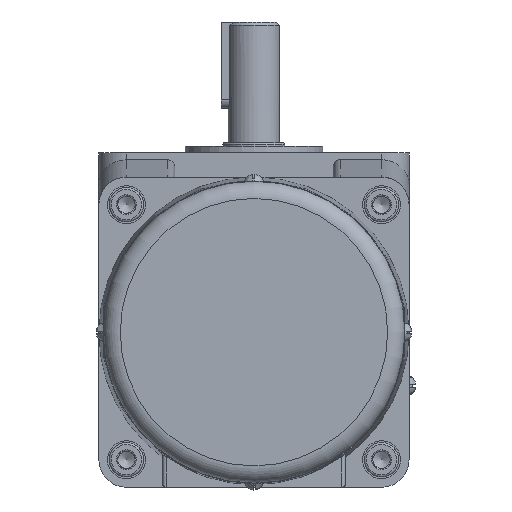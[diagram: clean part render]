
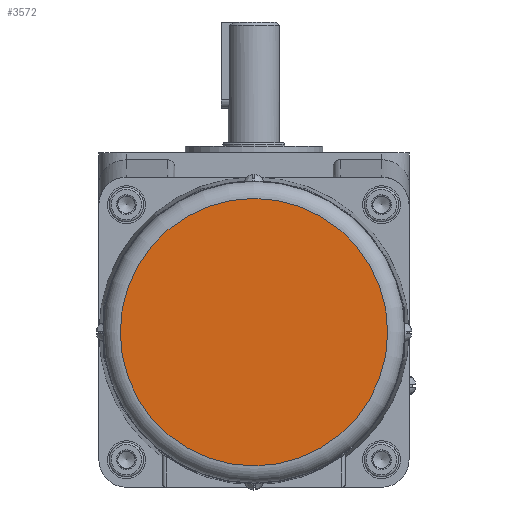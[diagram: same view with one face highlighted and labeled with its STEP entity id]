
A CAD part, front view. The second image highlights one B-rep face of the part: STEP entity #3572.
In plain terms, the highlighted planar face has unit normal (0, -1, 0).
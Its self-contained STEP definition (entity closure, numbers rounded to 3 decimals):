
#222=FACE_OUTER_BOUND('',#4838,.T.);
#3572=ADVANCED_FACE('',(#222),#4163,.F.);
#4163=PLANE('',#11125);
#4838=EDGE_LOOP('',(#5987));
#5987=ORIENTED_EDGE('',*,*,#9213,.T.);
#8281=VERTEX_POINT('',#16151);
#9213=EDGE_CURVE('',#8281,#8281,#10328,.T.);
#10328=CIRCLE('',#11099,38.8);
#11099=AXIS2_PLACEMENT_3D('',#16150,#12510,#12511);
#11125=AXIS2_PLACEMENT_3D('',#16234,#12576,#12577);
#12510=DIRECTION('',(0.,-1.,0.));
#12511=DIRECTION('',(0.,0.,-1.));
#12576=DIRECTION('',(0.,1.,0.));
#12577=DIRECTION('',(0.,0.,-1.));
#16150=CARTESIAN_POINT('',(0.,-239.,-52.));
#16151=CARTESIAN_POINT('',(0.,-239.,-90.8));
#16234=CARTESIAN_POINT('',(-43.8,-239.,-52.));
